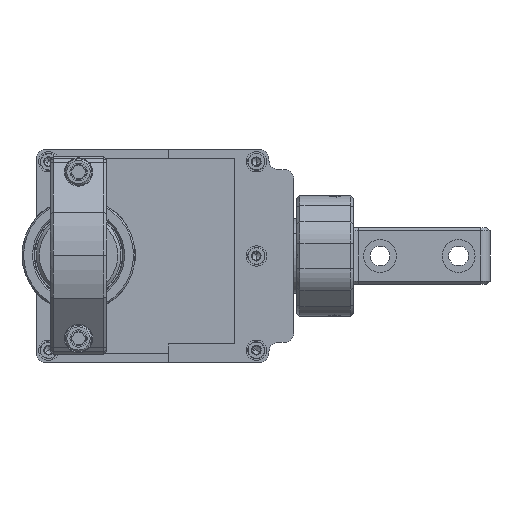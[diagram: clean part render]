
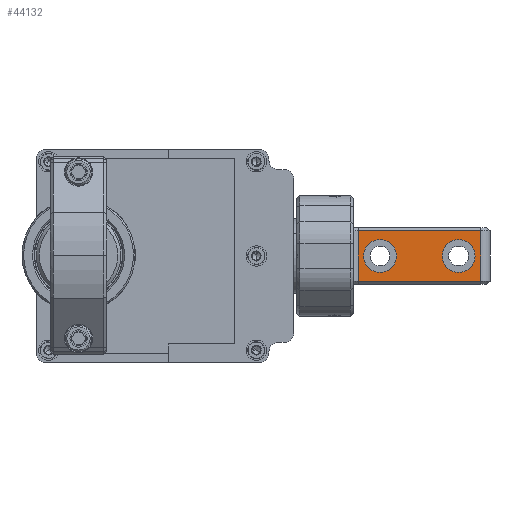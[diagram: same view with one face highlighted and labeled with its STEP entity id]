
A CAD part, left-side view. The second image highlights one B-rep face of the part: STEP entity #44132.
In plain terms, the highlighted planar face has unit normal (-1, 0, 0).
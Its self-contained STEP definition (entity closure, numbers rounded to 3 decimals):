
#2594 = VECTOR ( 'NONE', #5149, 1000. ) ;
#3289 = CIRCLE ( 'NONE', #28309, 5.25 ) ;
#3373 = CARTESIAN_POINT ( 'NONE',  ( -328.822, -109.5, 39.854 ) ) ;
#3724 = DIRECTION ( 'NONE',  ( -1., 0., 0. ) ) ;
#3753 = CARTESIAN_POINT ( 'NONE',  ( -328.822, -141.5, 31.854 ) ) ;
#4730 = VERTEX_POINT ( 'NONE', #47907 ) ;
#5149 = DIRECTION ( 'NONE',  ( 0., 1., 0. ) ) ;
#5352 = EDGE_CURVE ( 'NONE', #27356, #4730, #51893, .T. ) ;
#5376 = CARTESIAN_POINT ( 'NONE',  ( -328.822, -134.5, 34.604 ) ) ;
#6144 = EDGE_CURVE ( 'NONE', #27356, #21386, #34638, .T. ) ;
#8783 = CARTESIAN_POINT ( 'NONE',  ( -328.822, -134.5, 39.854 ) ) ;
#8886 = DIRECTION ( 'NONE',  ( 0., 0., 1. ) ) ;
#8904 = FACE_OUTER_BOUND ( 'NONE', #61135, .T. ) ;
#9832 = VERTEX_POINT ( 'NONE', #15918 ) ;
#10200 = VERTEX_POINT ( 'NONE', #40423 ) ;
#11076 = DIRECTION ( 'NONE',  ( 1., 0., 0. ) ) ;
#11185 = EDGE_LOOP ( 'NONE', ( #21199, #61947 ) ) ;
#12259 = VECTOR ( 'NONE', #28006, 1000. ) ;
#12454 = VERTEX_POINT ( 'NONE', #64929 ) ;
#14372 = DIRECTION ( 'NONE',  ( -1., 0., 0. ) ) ;
#14648 = ORIENTED_EDGE ( 'NONE', *, *, #5352, .T. ) ;
#14941 = LINE ( 'NONE', #44976, #32776 ) ;
#15722 = CARTESIAN_POINT ( 'NONE',  ( -328.822, -109.5, 39.854 ) ) ;
#15918 = CARTESIAN_POINT ( 'NONE',  ( -328.822, -109.5, 34.604 ) ) ;
#16146 = CARTESIAN_POINT ( 'NONE',  ( -328.822, -102.5, 47.854 ) ) ;
#16319 = CARTESIAN_POINT ( 'NONE',  ( -328.822, -141.5, 48.854 ) ) ;
#16919 = ORIENTED_EDGE ( 'NONE', *, *, #28402, .T. ) ;
#17067 = EDGE_CURVE ( 'NONE', #42264, #54631, #3289, .T. ) ;
#20502 = FACE_BOUND ( 'NONE', #65551, .T. ) ;
#21199 = ORIENTED_EDGE ( 'NONE', *, *, #17067, .F. ) ;
#21386 = VERTEX_POINT ( 'NONE', #3753 ) ;
#24335 = CIRCLE ( 'NONE', #38602, 5.25 ) ;
#25066 = DIRECTION ( 'NONE',  ( -1., 0., 0. ) ) ;
#25320 = EDGE_CURVE ( 'NONE', #4730, #12454, #14941, .T. ) ;
#26900 = DIRECTION ( 'NONE',  ( 0., 0., 1. ) ) ;
#27356 = VERTEX_POINT ( 'NONE', #45548 ) ;
#28006 = DIRECTION ( 'NONE',  ( 0., 0., -1. ) ) ;
#28309 = AXIS2_PLACEMENT_3D ( 'NONE', #8783, #43316, #49074 ) ;
#28402 = EDGE_CURVE ( 'NONE', #12454, #21386, #64438, .T. ) ;
#30380 = EDGE_CURVE ( 'NONE', #54631, #42264, #44155, .T. ) ;
#32776 = VECTOR ( 'NONE', #50718, 1000. ) ;
#34638 = LINE ( 'NONE', #16319, #12259 ) ;
#35191 = AXIS2_PLACEMENT_3D ( 'NONE', #59923, #25066, #54432 ) ;
#38602 = AXIS2_PLACEMENT_3D ( 'NONE', #3373, #14372, #8886 ) ;
#39389 = DIRECTION ( 'NONE',  ( 0., 0., -1. ) ) ;
#39433 = ORIENTED_EDGE ( 'NONE', *, *, #69366, .F. ) ;
#40423 = CARTESIAN_POINT ( 'NONE',  ( -328.822, -109.5, 45.104 ) ) ;
#42063 = EDGE_CURVE ( 'NONE', #10200, #9832, #71247, .T. ) ;
#42264 = VERTEX_POINT ( 'NONE', #73824 ) ;
#43316 = DIRECTION ( 'NONE',  ( -1., 0., 0. ) ) ;
#44132 = ADVANCED_FACE ( 'NONE', ( #58166, #20502, #8904 ), #62404, .F. ) ;
#44155 = CIRCLE ( 'NONE', #35191, 5.25 ) ;
#44915 = CARTESIAN_POINT ( 'NONE',  ( -328.822, -141.5, 48.854 ) ) ;
#44976 = CARTESIAN_POINT ( 'NONE',  ( -328.822, -102.5, 48.854 ) ) ;
#45548 = CARTESIAN_POINT ( 'NONE',  ( -328.822, -141.5, 47.854 ) ) ;
#47907 = CARTESIAN_POINT ( 'NONE',  ( -328.822, -102.5, 47.854 ) ) ;
#49074 = DIRECTION ( 'NONE',  ( 0., 0., 1. ) ) ;
#50718 = DIRECTION ( 'NONE',  ( 0., 0., -1. ) ) ;
#51893 = LINE ( 'NONE', #16146, #2594 ) ;
#54432 = DIRECTION ( 'NONE',  ( 0., 0., 1. ) ) ;
#54578 = VECTOR ( 'NONE', #60345, 1000. ) ;
#54631 = VERTEX_POINT ( 'NONE', #5376 ) ;
#57436 = ORIENTED_EDGE ( 'NONE', *, *, #25320, .T. ) ;
#58166 = FACE_BOUND ( 'NONE', #11185, .T. ) ;
#59923 = CARTESIAN_POINT ( 'NONE',  ( -328.822, -134.5, 39.854 ) ) ;
#60345 = DIRECTION ( 'NONE',  ( 0., -1., 0. ) ) ;
#60539 = ORIENTED_EDGE ( 'NONE', *, *, #6144, .F. ) ;
#61135 = EDGE_LOOP ( 'NONE', ( #57436, #16919, #60539, #14648 ) ) ;
#61947 = ORIENTED_EDGE ( 'NONE', *, *, #30380, .F. ) ;
#62404 = PLANE ( 'NONE',  #67597 ) ;
#63636 = ORIENTED_EDGE ( 'NONE', *, *, #42063, .F. ) ;
#64438 = LINE ( 'NONE', #71655, #54578 ) ;
#64929 = CARTESIAN_POINT ( 'NONE',  ( -328.822, -102.5, 31.854 ) ) ;
#65551 = EDGE_LOOP ( 'NONE', ( #63636, #39433 ) ) ;
#65621 = AXIS2_PLACEMENT_3D ( 'NONE', #15722, #3724, #26900 ) ;
#67597 = AXIS2_PLACEMENT_3D ( 'NONE', #44915, #11076, #39389 ) ;
#69366 = EDGE_CURVE ( 'NONE', #9832, #10200, #24335, .T. ) ;
#71247 = CIRCLE ( 'NONE', #65621, 5.25 ) ;
#71655 = CARTESIAN_POINT ( 'NONE',  ( -328.822, -141.5, 31.854 ) ) ;
#73824 = CARTESIAN_POINT ( 'NONE',  ( -328.822, -134.5, 45.104 ) ) ;
